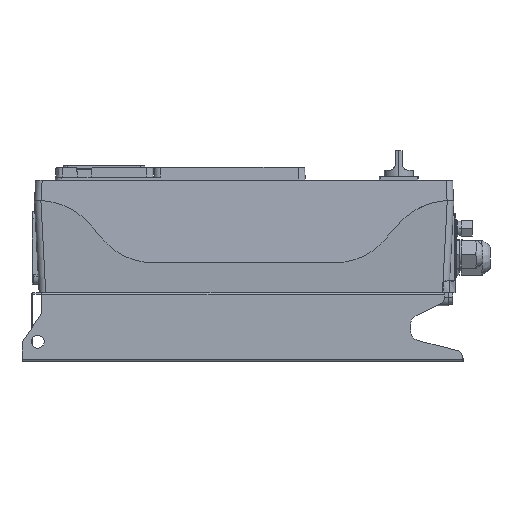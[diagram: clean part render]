
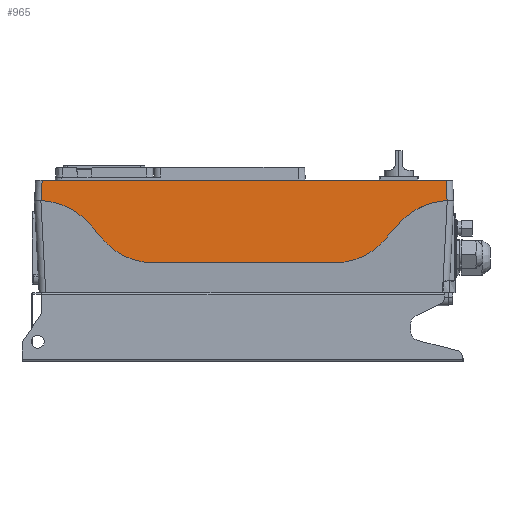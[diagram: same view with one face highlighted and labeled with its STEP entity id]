
A CAD part, left-side view. The second image highlights one B-rep face of the part: STEP entity #965.
In plain terms, the highlighted planar face has unit normal (-0.999, 0, 0.052).
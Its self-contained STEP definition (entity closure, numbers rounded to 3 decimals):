
#965=ADVANCED_FACE('Corps de pi\X2\00E8\X0\ce.5',(#4378),#4379,.F.);
#4378=FACE_OUTER_BOUND('',#9543,.T.);
#4379=PLANE('',#9544);
#9543=EDGE_LOOP('',(#21398,#21399,#21400,#21401,#21402,#21403,#21404,#21405,#21406,#21407,#21408));
#9544=AXIS2_PLACEMENT_3D('',#21409,#21410,#21411);
#21398=ORIENTED_EDGE('',*,*,#41663,.T.);
#21399=ORIENTED_EDGE('',*,*,#41640,.F.);
#21400=ORIENTED_EDGE('',*,*,#41664,.F.);
#21401=ORIENTED_EDGE('',*,*,#41665,.T.);
#21402=ORIENTED_EDGE('',*,*,#41666,.T.);
#21403=ORIENTED_EDGE('',*,*,#41667,.T.);
#21404=ORIENTED_EDGE('',*,*,#41668,.F.);
#21405=ORIENTED_EDGE('',*,*,#41669,.F.);
#21406=ORIENTED_EDGE('',*,*,#41670,.T.);
#21407=ORIENTED_EDGE('',*,*,#41671,.F.);
#21408=ORIENTED_EDGE('',*,*,#41672,.F.);
#21409=CARTESIAN_POINT('',(-112.075,425.567,261.006));
#21410=DIRECTION('',(0.999,0.,-0.052));
#21411=DIRECTION('',(0.0,-1.0,0.));
#41640=EDGE_CURVE('',#49787,#49775,#49789,.T.);
#41663=EDGE_CURVE('',#49834,#49775,#49835,.F.);
#41664=EDGE_CURVE('',#49836,#49787,#49837,.F.);
#41665=EDGE_CURVE('',#49836,#49838,#49839,.T.);
#41666=EDGE_CURVE('',#49838,#49840,#49841,.T.);
#41667=EDGE_CURVE('',#49840,#49842,#49843,.T.);
#41668=EDGE_CURVE('',#49844,#49842,#49845,.T.);
#41669=EDGE_CURVE('',#49846,#49844,#49847,.T.);
#41670=EDGE_CURVE('',#49846,#49848,#49849,.T.);
#41671=EDGE_CURVE('',#49850,#49848,#49851,.T.);
#41672=EDGE_CURVE('',#49834,#49850,#49852,.T.);
#49775=VERTEX_POINT('',#63183);
#49787=VERTEX_POINT('',#63237);
#49789=LINE('',#63253,#63254);
#49834=VERTEX_POINT('',#63307);
#49835=LINE('',#63308,#63309);
#49836=VERTEX_POINT('',#63310);
#49837=LINE('',#63311,#63312);
#49838=VERTEX_POINT('',#63313);
#49839=B_SPLINE_CURVE_WITH_KNOTS('',5,(#63314,#63315,#63316,#63317,#63318,#63319,#63320,#63321,#63322,#63323,#63324,#63325),.UNSPECIFIED.,.F.,.F.,(6,3,3,6),(5.37,51.259,102.548,120.88),.UNSPECIFIED.);
#49840=VERTEX_POINT('',#63326);
#49841=LINE('',#63327,#63328);
#49842=VERTEX_POINT('',#63329);
#49843=LINE('',#63330,#63331);
#49844=VERTEX_POINT('',#63332);
#49845=B_SPLINE_CURVE_WITH_KNOTS('',5,(#63333,#63334,#63335,#63336,#63337,#63338,#63339,#63340,#63341,#63342,#63343,#63344),.UNSPECIFIED.,.F.,.F.,(6,3,3,6),(0.0,50.754,101.538,118.509),.UNSPECIFIED.);
#49846=VERTEX_POINT('',#63345);
#49847=LINE('',#63346,#63347);
#49848=VERTEX_POINT('',#63348);
#49849=B_SPLINE_CURVE_WITH_KNOTS('',5,(#63349,#63350,#63351,#63352,#63353,#63354,#63355,#63356,#63357,#63358,#63359,#63360),.UNSPECIFIED.,.F.,.F.,(6,3,3,6),(0.0,50.754,101.538,118.509),.UNSPECIFIED.);
#49850=VERTEX_POINT('',#63361);
#49851=LINE('',#63362,#63363);
#49852=B_SPLINE_CURVE_WITH_KNOTS('',5,(#63364,#63365,#63366,#63367,#63368,#63369,#63370,#63371,#63372,#63373,#63374,#63375),.UNSPECIFIED.,.F.,.F.,(6,3,3,6),(5.37,51.259,102.548,120.88),.UNSPECIFIED.);
#63183=CARTESIAN_POINT('',(-116.729,-187.221,172.2));
#63237=CARTESIAN_POINT('',(-116.729,430.221,172.2));
#63253=CARTESIAN_POINT('',(-116.729,121.5,172.2));
#63254=VECTOR('',#88443,1.0);
#63307=CARTESIAN_POINT('',(-118.378,-188.871,140.729));
#63308=CARTESIAN_POINT('',(-117.554,-188.046,156.465));
#63309=VECTOR('',#88494,1.0);
#63310=CARTESIAN_POINT('',(-118.378,431.871,140.729));
#63311=CARTESIAN_POINT('',(-117.554,431.046,156.465));
#63312=VECTOR('',#88495,1.0);
#63313=CARTESIAN_POINT('',(-120.143,359.866,107.051));
#63314=CARTESIAN_POINT('',(-118.378,431.871,140.729));
#63315=CARTESIAN_POINT('',(-118.391,425.385,140.488));
#63316=CARTESIAN_POINT('',(-118.431,418.919,139.731));
#63317=CARTESIAN_POINT('',(-118.497,412.527,138.459));
#63318=CARTESIAN_POINT('',(-118.694,399.264,134.703));
#63319=CARTESIAN_POINT('',(-119.005,386.807,128.778));
#63320=CARTESIAN_POINT('',(-119.199,380.53,125.074));
#63321=CARTESIAN_POINT('',(-119.5,372.501,119.316));
#63322=CARTESIAN_POINT('',(-119.849,365.248,112.659));
#63323=CARTESIAN_POINT('',(-119.944,363.394,110.847));
#63324=CARTESIAN_POINT('',(-120.042,361.599,108.977));
#63325=CARTESIAN_POINT('',(-120.143,359.866,107.051));
#63326=CARTESIAN_POINT('',(-121.016,344.876,90.404));
#63327=CARTESIAN_POINT('',(-120.579,352.371,98.728));
#63328=VECTOR('',#88496,1.0);
#63329=CARTESIAN_POINT('',(-121.619,334.507,78.887));
#63330=CARTESIAN_POINT('',(-121.317,339.691,84.645));
#63331=VECTOR('',#88497,1.0);
#63332=CARTESIAN_POINT('',(-123.353,260.192,45.8));
#63333=CARTESIAN_POINT('',(-123.353,260.192,45.8));
#63334=CARTESIAN_POINT('',(-123.353,267.37,45.8));
#63335=CARTESIAN_POINT('',(-123.32,274.548,46.444));
#63336=CARTESIAN_POINT('',(-123.252,281.648,47.732));
#63337=CARTESIAN_POINT('',(-123.051,295.544,51.569));
#63338=CARTESIAN_POINT('',(-122.723,308.533,57.818));
#63339=CARTESIAN_POINT('',(-122.529,314.731,61.519));
#63340=CARTESIAN_POINT('',(-122.233,322.51,67.172));
#63341=CARTESIAN_POINT('',(-121.892,329.534,73.686));
#63342=CARTESIAN_POINT('',(-121.804,331.244,75.37));
#63343=CARTESIAN_POINT('',(-121.713,332.902,77.105));
#63344=CARTESIAN_POINT('',(-121.619,334.507,78.887));
#63345=CARTESIAN_POINT('',(-123.353,-17.192,45.8));
#63346=CARTESIAN_POINT('',(-123.353,121.5,45.8));
#63347=VECTOR('',#88498,1.0);
#63348=CARTESIAN_POINT('',(-121.619,-91.507,78.887));
#63349=CARTESIAN_POINT('',(-123.353,-17.192,45.8));
#63350=CARTESIAN_POINT('',(-123.353,-24.37,45.8));
#63351=CARTESIAN_POINT('',(-123.32,-31.548,46.444));
#63352=CARTESIAN_POINT('',(-123.252,-38.648,47.732));
#63353=CARTESIAN_POINT('',(-123.051,-52.544,51.569));
#63354=CARTESIAN_POINT('',(-122.723,-65.533,57.818));
#63355=CARTESIAN_POINT('',(-122.529,-71.731,61.519));
#63356=CARTESIAN_POINT('',(-122.233,-79.51,67.172));
#63357=CARTESIAN_POINT('',(-121.892,-86.534,73.686));
#63358=CARTESIAN_POINT('',(-121.804,-88.244,75.37));
#63359=CARTESIAN_POINT('',(-121.713,-89.902,77.105));
#63360=CARTESIAN_POINT('',(-121.619,-91.507,78.887));
#63361=CARTESIAN_POINT('',(-120.143,-116.866,107.051));
#63362=CARTESIAN_POINT('',(-120.881,-104.186,92.969));
#63363=VECTOR('',#88499,1.0);
#63364=CARTESIAN_POINT('',(-118.378,-188.871,140.729));
#63365=CARTESIAN_POINT('',(-118.391,-182.385,140.488));
#63366=CARTESIAN_POINT('',(-118.431,-175.919,139.731));
#63367=CARTESIAN_POINT('',(-118.497,-169.527,138.459));
#63368=CARTESIAN_POINT('',(-118.694,-156.264,134.703));
#63369=CARTESIAN_POINT('',(-119.005,-143.807,128.778));
#63370=CARTESIAN_POINT('',(-119.199,-137.53,125.074));
#63371=CARTESIAN_POINT('',(-119.5,-129.501,119.316));
#63372=CARTESIAN_POINT('',(-119.849,-122.248,112.659));
#63373=CARTESIAN_POINT('',(-119.944,-120.394,110.847));
#63374=CARTESIAN_POINT('',(-120.042,-118.599,108.977));
#63375=CARTESIAN_POINT('',(-120.143,-116.866,107.051));
#88443=DIRECTION('',(0.0,-1.0,0.0));
#88494=DIRECTION('',(-0.052,-0.052,-0.997));
#88495=DIRECTION('',(-0.052,0.052,-0.997));
#88496=DIRECTION('',(-0.039,-0.669,-0.743));
#88497=DIRECTION('',(-0.039,-0.669,-0.743));
#88498=DIRECTION('',(0.0,1.0,0.));
#88499=DIRECTION('',(-0.039,0.669,-0.743));
